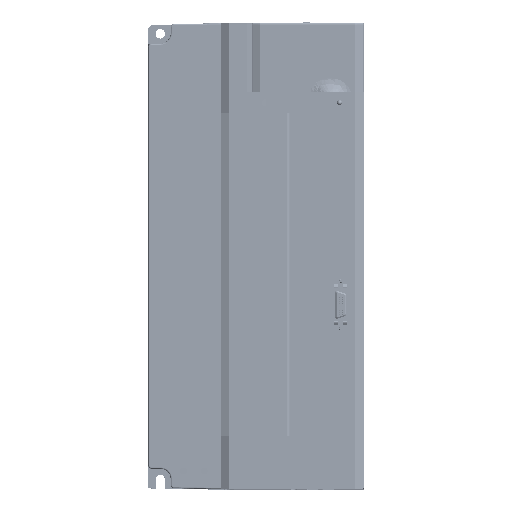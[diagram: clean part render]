
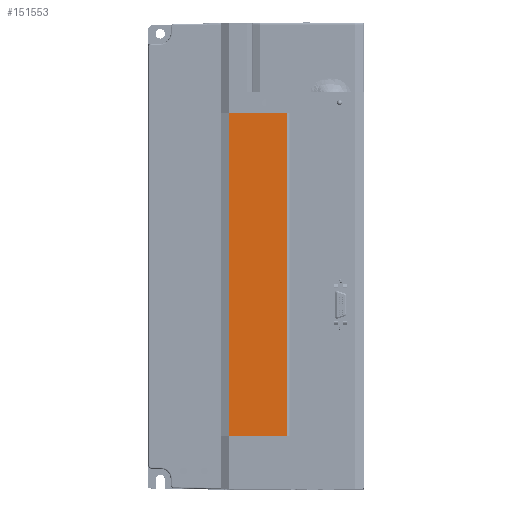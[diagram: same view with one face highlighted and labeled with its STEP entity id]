
A CAD part, top view. The second image highlights one B-rep face of the part: STEP entity #151553.
In plain terms, the highlighted planar face has unit normal (0, 0, -1).
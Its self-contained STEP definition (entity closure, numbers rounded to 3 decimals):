
#3963 = DIRECTION ( 'NONE',  ( 1., 0., 0. ) ) ;
#9600 = VECTOR ( 'NONE', #3963, 1000. ) ;
#15653 = VECTOR ( 'NONE', #192921, 1000. ) ;
#31160 = LINE ( 'NONE', #200308, #167244 ) ;
#34421 = DIRECTION ( 'NONE',  ( 0., 1., 0. ) ) ;
#39925 = CARTESIAN_POINT ( 'NONE',  ( -71.1, 82.85, 103.47 ) ) ;
#46235 = VERTEX_POINT ( 'NONE', #115290 ) ;
#49308 = VERTEX_POINT ( 'NONE', #132124 ) ;
#49380 = LINE ( 'NONE', #141999, #102593 ) ;
#66520 = CARTESIAN_POINT ( 'NONE',  ( -37.7, -104.05, 103.47 ) ) ;
#76428 = ORIENTED_EDGE ( 'NONE', *, *, #245625, .T. ) ;
#88591 = CARTESIAN_POINT ( 'NONE',  ( -71.1, 82.85, 103.47 ) ) ;
#102593 = VECTOR ( 'NONE', #34421, 1000. ) ;
#115038 = AXIS2_PLACEMENT_3D ( 'NONE', #39925, #232843, #273629 ) ;
#115161 = FACE_OUTER_BOUND ( 'NONE', #250846, .T. ) ;
#115290 = CARTESIAN_POINT ( 'NONE',  ( -71.1, -104.05, 103.47 ) ) ;
#117609 = DIRECTION ( 'NONE',  ( 0., -1., 0. ) ) ;
#117798 = ORIENTED_EDGE ( 'NONE', *, *, #130407, .T. ) ;
#130407 = EDGE_CURVE ( 'NONE', #227580, #46235, #254667, .T. ) ;
#131608 = CARTESIAN_POINT ( 'NONE',  ( -71.1, -104.05, 103.47 ) ) ;
#132124 = CARTESIAN_POINT ( 'NONE',  ( -37.7, 82.85, 103.47 ) ) ;
#141999 = CARTESIAN_POINT ( 'NONE',  ( -71.1, 82.85, 103.47 ) ) ;
#151553 = ADVANCED_FACE ( 'NONE', ( #115161 ), #211604, .T. ) ;
#158991 = LINE ( 'NONE', #233151, #9600 ) ;
#159812 = ORIENTED_EDGE ( 'NONE', *, *, #167803, .T. ) ;
#167244 = VECTOR ( 'NONE', #117609, 1000. ) ;
#167803 = EDGE_CURVE ( 'NONE', #49308, #227580, #31160, .T. ) ;
#185996 = EDGE_CURVE ( 'NONE', #46235, #256394, #49380, .T. ) ;
#192921 = DIRECTION ( 'NONE',  ( -1., 0., 0. ) ) ;
#200308 = CARTESIAN_POINT ( 'NONE',  ( -37.7, 82.85, 103.47 ) ) ;
#211604 = PLANE ( 'NONE',  #115038 ) ;
#227580 = VERTEX_POINT ( 'NONE', #66520 ) ;
#232843 = DIRECTION ( 'NONE',  ( 0., 0., -1. ) ) ;
#233151 = CARTESIAN_POINT ( 'NONE',  ( -71.1, 82.85, 103.47 ) ) ;
#245625 = EDGE_CURVE ( 'NONE', #256394, #49308, #158991, .T. ) ;
#250846 = EDGE_LOOP ( 'NONE', ( #159812, #117798, #251078, #76428 ) ) ;
#251078 = ORIENTED_EDGE ( 'NONE', *, *, #185996, .T. ) ;
#254667 = LINE ( 'NONE', #131608, #15653 ) ;
#256394 = VERTEX_POINT ( 'NONE', #88591 ) ;
#273629 = DIRECTION ( 'NONE',  ( -1., 0., 0. ) ) ;
